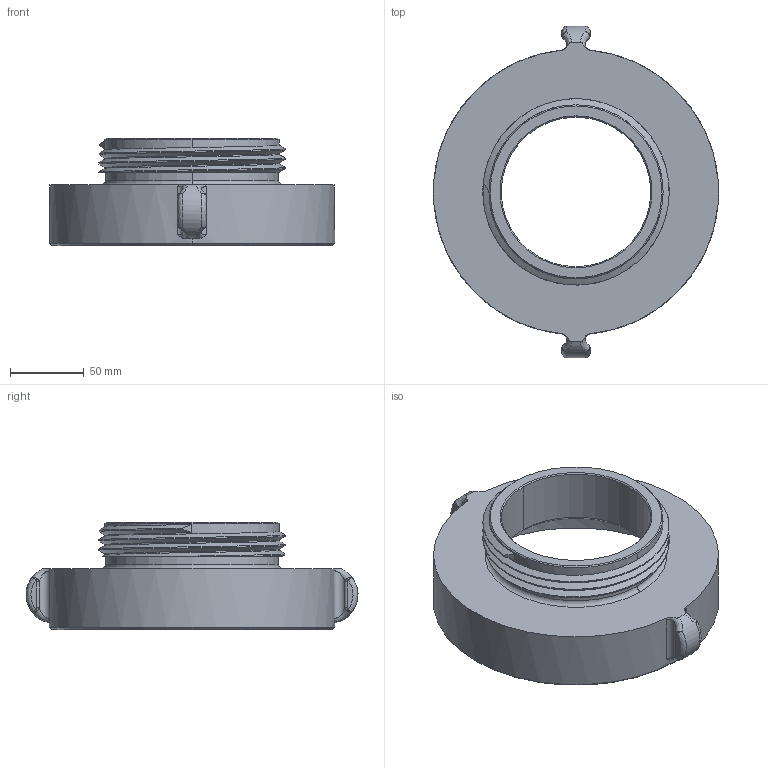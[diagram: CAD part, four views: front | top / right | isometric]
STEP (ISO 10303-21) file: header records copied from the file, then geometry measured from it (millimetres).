
FILE_DESCRIPTION((''),'2;1');
FILE_NAME('03560028_01','2015-04-14T',('sobri'),(''),'PRO/ENGINEER BY PARAMETRIC TECHNOLOGY CORPORATION, 2011180','PRO/ENGINEER BY PARAMETRIC TECHNOLOGY CORPORATION, 2011180','');
FILE_SCHEMA(('CONFIG_CONTROL_DESIGN'));
Length unit declared in the file: inch
Products named in the file (1): 03560028_01
Bounding box: 193.68 x 225.42 x 73.03 mm (x, y, z)
Surface area: 136133.1 mm2 (no closed solid volume)
Topology: 0 solids, 2 shells, 90 faces, 220 edges, 136 vertices
Faces by surface type: bspline 34, cylinder 31, plane 13, cone 8, torus 4
Entity records: 7278 total; most frequent: CARTESIAN_POINT 5418, ORIENTED_EDGE 429, DIRECTION 290, EDGE_CURVE 220, VERTEX_POINT 136, AXIS2_PLACEMENT_3D 120, B_SPLINE_CURVE_WITH_KNOTS 106, EDGE_LOOP 97
